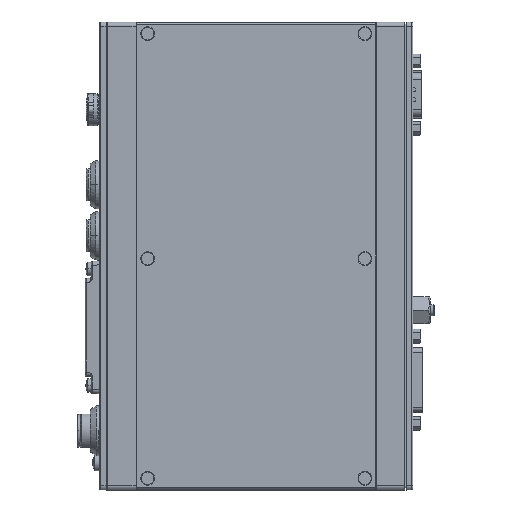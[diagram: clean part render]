
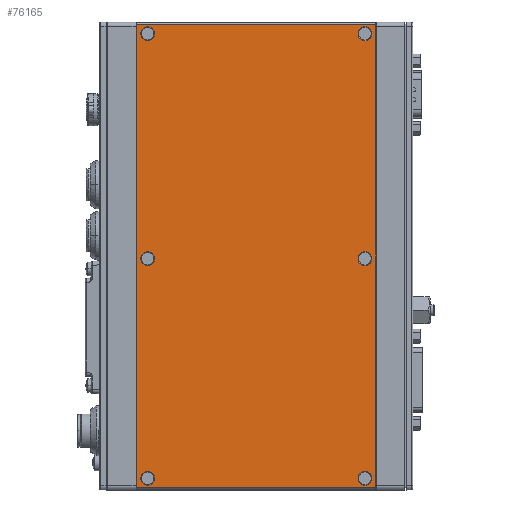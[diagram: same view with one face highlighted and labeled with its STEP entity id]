
A CAD part, front view. The second image highlights one B-rep face of the part: STEP entity #76165.
In plain terms, the highlighted free-form (B-spline) face has degree [1, 1] with [2, 2] control points.
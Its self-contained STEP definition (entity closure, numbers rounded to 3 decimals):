
#12246=DIRECTION('',(1.,0.,0.));
#12247=VECTOR('',#12246,89.);
#12248=CARTESIAN_POINT('',(-99.75,0.2,-86.));
#12249=LINE('',#12248,#12247);
#12250=DIRECTION('',(0.,0.,-1.));
#12251=VECTOR('',#12250,172.);
#12252=CARTESIAN_POINT('',(-99.75,0.2,86.));
#12253=LINE('',#12252,#12251);
#12254=DIRECTION('',(-1.,0.,0.));
#12255=VECTOR('',#12254,89.);
#12256=CARTESIAN_POINT('',(-10.75,0.2,86.));
#12257=LINE('',#12256,#12255);
#12258=DIRECTION('',(0.,0.,1.));
#12259=VECTOR('',#12258,172.);
#12260=CARTESIAN_POINT('',(-10.75,0.2,-86.));
#12261=LINE('',#12260,#12259);
#12262=CARTESIAN_POINT('',(-14.85,0.2,-1.));
#12263=DIRECTION('',(0.,1.,0.));
#12264=DIRECTION('',(1.,0.,0.));
#12265=AXIS2_PLACEMENT_3D('',#12262,#12263,#12264);
#12267=CARTESIAN_POINT('',(-14.85,0.2,-1.));
#12268=DIRECTION('',(0.,1.,0.));
#12269=DIRECTION('',(-1.,0.,0.));
#12270=AXIS2_PLACEMENT_3D('',#12267,#12268,#12269);
#12272=CARTESIAN_POINT('',(-14.85,0.2,-82.65));
#12273=DIRECTION('',(0.,1.,0.));
#12274=DIRECTION('',(1.,0.,0.));
#12275=AXIS2_PLACEMENT_3D('',#12272,#12273,#12274);
#12277=CARTESIAN_POINT('',(-14.85,0.2,-82.65));
#12278=DIRECTION('',(0.,1.,0.));
#12279=DIRECTION('',(-1.,0.,0.));
#12280=AXIS2_PLACEMENT_3D('',#12277,#12278,#12279);
#12282=CARTESIAN_POINT('',(-14.85,0.2,82.65));
#12283=DIRECTION('',(0.,1.,0.));
#12284=DIRECTION('',(1.,0.,0.));
#12285=AXIS2_PLACEMENT_3D('',#12282,#12283,#12284);
#12287=CARTESIAN_POINT('',(-14.85,0.2,82.65));
#12288=DIRECTION('',(0.,1.,0.));
#12289=DIRECTION('',(-1.,0.,0.));
#12290=AXIS2_PLACEMENT_3D('',#12287,#12288,#12289);
#12292=CARTESIAN_POINT('',(-95.65,0.2,-1.));
#12293=DIRECTION('',(0.,-1.,0.));
#12294=DIRECTION('',(-1.,0.,0.));
#12295=AXIS2_PLACEMENT_3D('',#12292,#12293,#12294);
#12297=CARTESIAN_POINT('',(-95.65,0.2,-1.));
#12298=DIRECTION('',(0.,-1.,0.));
#12299=DIRECTION('',(1.,0.,0.));
#12300=AXIS2_PLACEMENT_3D('',#12297,#12298,#12299);
#12302=CARTESIAN_POINT('',(-95.65,0.2,-82.65));
#12303=DIRECTION('',(0.,-1.,0.));
#12304=DIRECTION('',(-1.,0.,0.));
#12305=AXIS2_PLACEMENT_3D('',#12302,#12303,#12304);
#12307=CARTESIAN_POINT('',(-95.65,0.2,-82.65));
#12308=DIRECTION('',(0.,-1.,0.));
#12309=DIRECTION('',(1.,0.,0.));
#12310=AXIS2_PLACEMENT_3D('',#12307,#12308,#12309);
#12312=CARTESIAN_POINT('',(-95.65,0.2,82.65));
#12313=DIRECTION('',(0.,-1.,0.));
#12314=DIRECTION('',(-1.,0.,0.));
#12315=AXIS2_PLACEMENT_3D('',#12312,#12313,#12314);
#12317=CARTESIAN_POINT('',(-95.65,0.2,82.65));
#12318=DIRECTION('',(0.,-1.,0.));
#12319=DIRECTION('',(1.,0.,0.));
#12320=AXIS2_PLACEMENT_3D('',#12317,#12318,#12319);
#43528=CARTESIAN_POINT('',(-12.3,0.2,-1.));
#43529=CARTESIAN_POINT('',(-17.4,0.2,-1.));
#43530=VERTEX_POINT('',#43528);
#43531=VERTEX_POINT('',#43529);
#43536=CARTESIAN_POINT('',(-12.3,0.2,-82.65));
#43537=CARTESIAN_POINT('',(-17.4,0.2,-82.65));
#43538=VERTEX_POINT('',#43536);
#43539=VERTEX_POINT('',#43537);
#43544=CARTESIAN_POINT('',(-12.3,0.2,82.65));
#43545=CARTESIAN_POINT('',(-17.4,0.2,82.65));
#43546=VERTEX_POINT('',#43544);
#43547=VERTEX_POINT('',#43545);
#43552=CARTESIAN_POINT('',(-98.2,0.2,-1.));
#43553=CARTESIAN_POINT('',(-93.1,0.2,-1.));
#43554=VERTEX_POINT('',#43552);
#43555=VERTEX_POINT('',#43553);
#43560=CARTESIAN_POINT('',(-98.2,0.2,-82.65));
#43561=CARTESIAN_POINT('',(-93.1,0.2,-82.65));
#43562=VERTEX_POINT('',#43560);
#43563=VERTEX_POINT('',#43561);
#43568=CARTESIAN_POINT('',(-98.2,0.2,82.65));
#43569=CARTESIAN_POINT('',(-93.1,0.2,82.65));
#43570=VERTEX_POINT('',#43568);
#43571=VERTEX_POINT('',#43569);
#43572=CARTESIAN_POINT('',(-10.75,0.2,-86.));
#43574=VERTEX_POINT('',#43572);
#43578=CARTESIAN_POINT('',(-99.75,0.2,-86.));
#43579=VERTEX_POINT('',#43578);
#43580=CARTESIAN_POINT('',(-99.75,0.2,86.));
#43582=VERTEX_POINT('',#43580);
#43586=CARTESIAN_POINT('',(-10.75,0.2,86.));
#43587=VERTEX_POINT('',#43586);
#76117=CARTESIAN_POINT('',(-8.97,0.2,89.44));
#76118=CARTESIAN_POINT('',(-8.97,0.2,-89.44));
#76119=CARTESIAN_POINT('',(-101.53,0.2,89.44));
#76120=CARTESIAN_POINT('',(-101.53,0.2,-89.44));
#76121=B_SPLINE_SURFACE_WITH_KNOTS('',1,1,((#76117,#76118),(#76119,#76120)),
.UNSPECIFIED.,.F.,.F.,.F.,(2,2),(2,2),(-46.28,46.28),(-89.44,89.44),
.UNSPECIFIED.);
#76123=ORIENTED_EDGE('',*,*,#76122,.F.);
#76124=ORIENTED_EDGE('',*,*,#76082,.F.);
#76125=ORIENTED_EDGE('',*,*,#76105,.F.);
#76126=ORIENTED_EDGE('',*,*,#76037,.F.);
#76127=EDGE_LOOP('',(#76123,#76124,#76125,#76126));
#76128=FACE_OUTER_BOUND('',#76127,.F.);
#76130=ORIENTED_EDGE('',*,*,#76129,.F.);
#76132=ORIENTED_EDGE('',*,*,#76131,.F.);
#76133=EDGE_LOOP('',(#76130,#76132));
#76134=FACE_BOUND('',#76133,.F.);
#76136=ORIENTED_EDGE('',*,*,#76135,.F.);
#76138=ORIENTED_EDGE('',*,*,#76137,.F.);
#76139=EDGE_LOOP('',(#76136,#76138));
#76140=FACE_BOUND('',#76139,.F.);
#76142=ORIENTED_EDGE('',*,*,#76141,.F.);
#76144=ORIENTED_EDGE('',*,*,#76143,.F.);
#76145=EDGE_LOOP('',(#76142,#76144));
#76146=FACE_BOUND('',#76145,.F.);
#76148=ORIENTED_EDGE('',*,*,#76147,.T.);
#76150=ORIENTED_EDGE('',*,*,#76149,.T.);
#76151=EDGE_LOOP('',(#76148,#76150));
#76152=FACE_BOUND('',#76151,.F.);
#76154=ORIENTED_EDGE('',*,*,#76153,.T.);
#76156=ORIENTED_EDGE('',*,*,#76155,.T.);
#76157=EDGE_LOOP('',(#76154,#76156));
#76158=FACE_BOUND('',#76157,.F.);
#76160=ORIENTED_EDGE('',*,*,#76159,.T.);
#76162=ORIENTED_EDGE('',*,*,#76161,.T.);
#76163=EDGE_LOOP('',(#76160,#76162));
#76164=FACE_BOUND('',#76163,.F.);
#76165=ADVANCED_FACE('',(#76128,#76134,#76140,#76146,#76152,#76158,#76164),
#76121,.T.);
#12266=CIRCLE('',#12265,2.55);
#12271=CIRCLE('',#12270,2.55);
#12276=CIRCLE('',#12275,2.55);
#12281=CIRCLE('',#12280,2.55);
#12286=CIRCLE('',#12285,2.55);
#12291=CIRCLE('',#12290,2.55);
#12296=CIRCLE('',#12295,2.55);
#12301=CIRCLE('',#12300,2.55);
#12306=CIRCLE('',#12305,2.55);
#12311=CIRCLE('',#12310,2.55);
#12316=CIRCLE('',#12315,2.55);
#12321=CIRCLE('',#12320,2.55);
#76037=EDGE_CURVE('',#43574,#43587,#12261,.T.);
#76082=EDGE_CURVE('',#43582,#43579,#12253,.T.);
#76105=EDGE_CURVE('',#43587,#43582,#12257,.T.);
#76122=EDGE_CURVE('',#43579,#43574,#12249,.T.);
#76129=EDGE_CURVE('',#43530,#43531,#12266,.T.);
#76131=EDGE_CURVE('',#43531,#43530,#12271,.T.);
#76135=EDGE_CURVE('',#43538,#43539,#12276,.T.);
#76137=EDGE_CURVE('',#43539,#43538,#12281,.T.);
#76141=EDGE_CURVE('',#43546,#43547,#12286,.T.);
#76143=EDGE_CURVE('',#43547,#43546,#12291,.T.);
#76147=EDGE_CURVE('',#43554,#43555,#12296,.T.);
#76149=EDGE_CURVE('',#43555,#43554,#12301,.T.);
#76153=EDGE_CURVE('',#43562,#43563,#12306,.T.);
#76155=EDGE_CURVE('',#43563,#43562,#12311,.T.);
#76159=EDGE_CURVE('',#43570,#43571,#12316,.T.);
#76161=EDGE_CURVE('',#43571,#43570,#12321,.T.);
